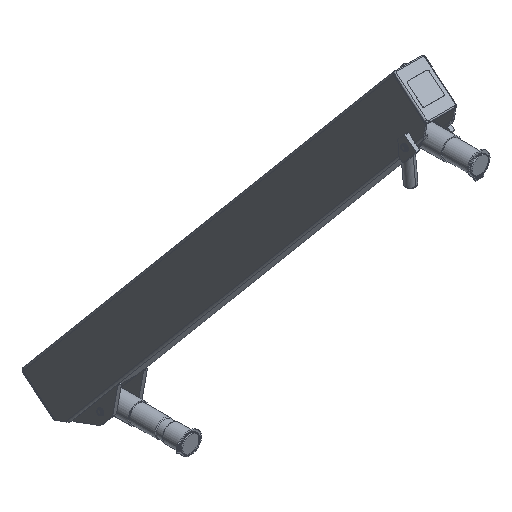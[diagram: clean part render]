
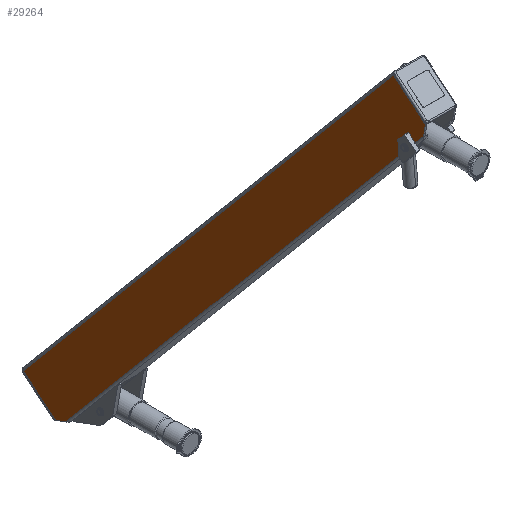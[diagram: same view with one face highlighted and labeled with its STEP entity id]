
A CAD part, isometric view. The second image highlights one B-rep face of the part: STEP entity #29264.
In plain terms, the highlighted planar face has unit normal (-1, 0, 0).
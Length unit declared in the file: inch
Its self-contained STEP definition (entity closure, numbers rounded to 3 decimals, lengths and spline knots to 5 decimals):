
#1308 = ORIENTED_EDGE ( 'NONE', *, *, #21322, .T. ) ;
#3027 = DIRECTION ( 'NONE',  ( 1., 0., 0. ) ) ;
#3079 = VERTEX_POINT ( 'NONE', #57418 ) ;
#3157 = VERTEX_POINT ( 'NONE', #37815 ) ;
#3450 = EDGE_CURVE ( 'NONE', #58238, #40316, #27050, .T. ) ;
#3585 = ORIENTED_EDGE ( 'NONE', *, *, #33323, .T. ) ;
#3888 = DIRECTION ( 'NONE',  ( 0., -0.5, 0.866 ) ) ;
#4001 = CARTESIAN_POINT ( 'NONE',  ( -1.5, -2.4, 28. ) ) ;
#4753 = VECTOR ( 'NONE', #47982, 39.37008 ) ;
#4958 = DIRECTION ( 'NONE',  ( 0., 1., 0. ) ) ;
#6441 = CARTESIAN_POINT ( 'NONE',  ( -1.5, -2.4, 28. ) ) ;
#6753 = VECTOR ( 'NONE', #38861, 39.37008 ) ;
#7006 = DIRECTION ( 'NONE',  ( 0., 1., 0. ) ) ;
#7729 = CARTESIAN_POINT ( 'NONE',  ( -1.5, -2.5, 26.375 ) ) ;
#7998 = EDGE_LOOP ( 'NONE', ( #26249, #17325, #65100, #30515, #3585, #57410, #38589, #1308, #32682, #58590, #48346 ) ) ;
#8649 = CARTESIAN_POINT ( 'NONE',  ( -1.5, -2.315, 26.5 ) ) ;
#9172 = CARTESIAN_POINT ( 'NONE',  ( -1.5, -0.1, 28. ) ) ;
#9305 = EDGE_CURVE ( 'NONE', #11002, #3079, #18750, .T. ) ;
#10438 = EDGE_CURVE ( 'NONE', #65320, #19613, #29204, .T. ) ;
#11002 = VERTEX_POINT ( 'NONE', #18115 ) ;
#11098 = DIRECTION ( 'NONE',  ( 1., 0., 0. ) ) ;
#12035 = CARTESIAN_POINT ( 'NONE',  ( -1.5, -2.125, 0. ) ) ;
#13178 = EDGE_CURVE ( 'NONE', #58238, #3157, #60700, .T. ) ;
#13244 = VECTOR ( 'NONE', #51394, 39.37008 ) ;
#13363 = LINE ( 'NONE', #33610, #44469 ) ;
#14292 = VECTOR ( 'NONE', #3888, 39.37008 ) ;
#15384 = AXIS2_PLACEMENT_3D ( 'NONE', #55927, #11098, #36662 ) ;
#16207 = CARTESIAN_POINT ( 'NONE',  ( -1.5, -2.5, 27.35048 ) ) ;
#17325 = ORIENTED_EDGE ( 'NONE', *, *, #27661, .T. ) ;
#18115 = CARTESIAN_POINT ( 'NONE',  ( -1.5, -0.1, 28. ) ) ;
#18392 = DIRECTION ( 'NONE',  ( 0., -1., 0. ) ) ;
#18750 = LINE ( 'NONE', #63906, #4753 ) ;
#19155 = EDGE_CURVE ( 'NONE', #19613, #40316, #43604, .T. ) ;
#19613 = VERTEX_POINT ( 'NONE', #46547 ) ;
#19834 = CARTESIAN_POINT ( 'NONE',  ( -1.5, -2.5, 0.64952 ) ) ;
#20118 = EDGE_CURVE ( 'NONE', #53347, #61431, #44824, .T. ) ;
#20813 = LINE ( 'NONE', #7729, #27606 ) ;
#21322 = EDGE_CURVE ( 'NONE', #56524, #65320, #52965, .T. ) ;
#23599 = CARTESIAN_POINT ( 'NONE',  ( -1.5, -2.4, 26.375 ) ) ;
#26249 = ORIENTED_EDGE ( 'NONE', *, *, #13178, .T. ) ;
#26772 = DIRECTION ( 'NONE',  ( 0., 1., 0. ) ) ;
#27050 = LINE ( 'NONE', #6441, #29127 ) ;
#27527 = FACE_OUTER_BOUND ( 'NONE', #7998, .T. ) ;
#27606 = VECTOR ( 'NONE', #26772, 39.37008 ) ;
#27661 = EDGE_CURVE ( 'NONE', #3157, #11002, #33239, .T. ) ;
#29127 = VECTOR ( 'NONE', #32003, 39.37008 ) ;
#29204 = CIRCLE ( 'NONE', #15384, 0.14062 ) ;
#29264 = ADVANCED_FACE ( 'NONE', ( #27527 ), #55310, .T. ) ;
#30515 = ORIENTED_EDGE ( 'NONE', *, *, #48788, .F. ) ;
#30793 = CARTESIAN_POINT ( 'NONE',  ( -1.5, -2.4, 0.47631 ) ) ;
#31916 = CARTESIAN_POINT ( 'NONE',  ( -1.5, -0.1, 28. ) ) ;
#32003 = DIRECTION ( 'NONE',  ( 0., 0., -1. ) ) ;
#32682 = ORIENTED_EDGE ( 'NONE', *, *, #10438, .T. ) ;
#33239 = LINE ( 'NONE', #31916, #42592 ) ;
#33323 = EDGE_CURVE ( 'NONE', #57489, #61431, #40047, .T. ) ;
#33610 = CARTESIAN_POINT ( 'NONE',  ( -1.5, -0.1, 0. ) ) ;
#35369 = DIRECTION ( 'NONE',  ( 0., -1., 0. ) ) ;
#36662 = DIRECTION ( 'NONE',  ( 0., 1., 0. ) ) ;
#37815 = CARTESIAN_POINT ( 'NONE',  ( -1.5, -2.125, 28. ) ) ;
#38589 = ORIENTED_EDGE ( 'NONE', *, *, #50296, .T. ) ;
#38861 = DIRECTION ( 'NONE',  ( 0., 0., -1. ) ) ;
#39109 = AXIS2_PLACEMENT_3D ( 'NONE', #8649, #3027, #4958 ) ;
#40047 = LINE ( 'NONE', #19834, #14292 ) ;
#40316 = VERTEX_POINT ( 'NONE', #48064 ) ;
#42592 = VECTOR ( 'NONE', #7006, 39.37008 ) ;
#43604 = LINE ( 'NONE', #63876, #56581 ) ;
#44375 = DIRECTION ( 'NONE',  ( -1., 0., 0. ) ) ;
#44469 = VECTOR ( 'NONE', #58214, 39.37008 ) ;
#44824 = LINE ( 'NONE', #4001, #6753 ) ;
#46547 = CARTESIAN_POINT ( 'NONE',  ( -1.5, -2.37942, 26.625 ) ) ;
#47982 = DIRECTION ( 'NONE',  ( 0., 0., -1. ) ) ;
#48064 = CARTESIAN_POINT ( 'NONE',  ( -1.5, -2.4, 26.625 ) ) ;
#48346 = ORIENTED_EDGE ( 'NONE', *, *, #3450, .F. ) ;
#48788 = EDGE_CURVE ( 'NONE', #57489, #3079, #13363, .T. ) ;
#50296 = EDGE_CURVE ( 'NONE', #53347, #56524, #20813, .T. ) ;
#51394 = DIRECTION ( 'NONE',  ( 0., 0.5, 0.866 ) ) ;
#52965 = CIRCLE ( 'NONE', #39109, 0.14062 ) ;
#53347 = VERTEX_POINT ( 'NONE', #23599 ) ;
#54202 = CARTESIAN_POINT ( 'NONE',  ( -1.5, -2.4, 27.52369 ) ) ;
#55310 = PLANE ( 'NONE',  #62713 ) ;
#55927 = CARTESIAN_POINT ( 'NONE',  ( -1.5, -2.315, 26.5 ) ) ;
#56295 = CARTESIAN_POINT ( 'NONE',  ( -1.5, -2.37942, 26.375 ) ) ;
#56524 = VERTEX_POINT ( 'NONE', #56295 ) ;
#56581 = VECTOR ( 'NONE', #18392, 39.37008 ) ;
#57410 = ORIENTED_EDGE ( 'NONE', *, *, #20118, .F. ) ;
#57418 = CARTESIAN_POINT ( 'NONE',  ( -1.5, -0.1, 0. ) ) ;
#57489 = VERTEX_POINT ( 'NONE', #12035 ) ;
#58214 = DIRECTION ( 'NONE',  ( 0., 1., 0. ) ) ;
#58238 = VERTEX_POINT ( 'NONE', #54202 ) ;
#58590 = ORIENTED_EDGE ( 'NONE', *, *, #19155, .T. ) ;
#60700 = LINE ( 'NONE', #16207, #13244 ) ;
#60779 = CARTESIAN_POINT ( 'NONE',  ( -1.5, -2.17438, 26.5 ) ) ;
#61431 = VERTEX_POINT ( 'NONE', #30793 ) ;
#62713 = AXIS2_PLACEMENT_3D ( 'NONE', #9172, #44375, #35369 ) ;
#63876 = CARTESIAN_POINT ( 'NONE',  ( -1.5, -2.5, 26.625 ) ) ;
#63906 = CARTESIAN_POINT ( 'NONE',  ( -1.5, -0.1, 28. ) ) ;
#65100 = ORIENTED_EDGE ( 'NONE', *, *, #9305, .T. ) ;
#65320 = VERTEX_POINT ( 'NONE', #60779 ) ;
